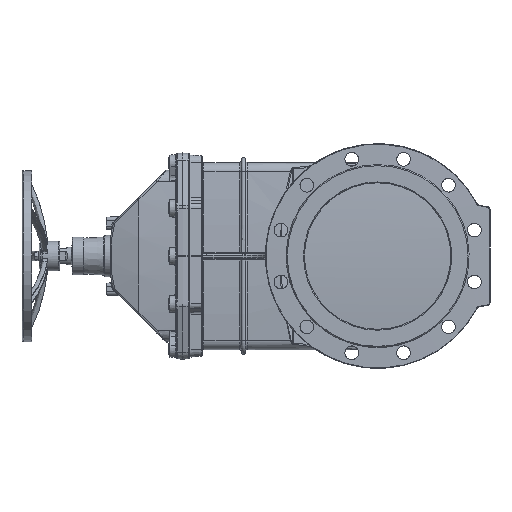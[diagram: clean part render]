
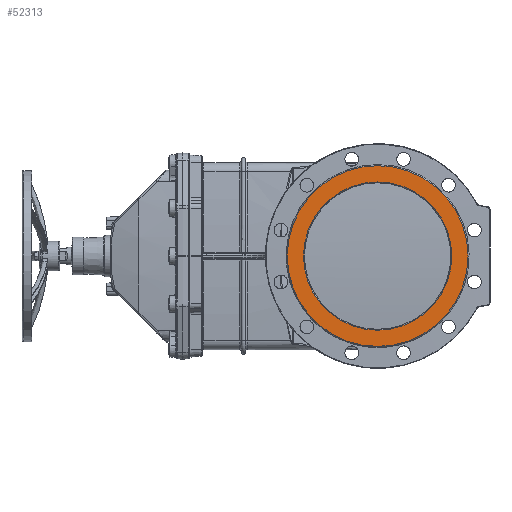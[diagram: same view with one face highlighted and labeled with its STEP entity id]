
A CAD part, left-side view. The second image highlights one B-rep face of the part: STEP entity #52313.
In plain terms, the highlighted planar face has unit normal (-1, 0, 0).
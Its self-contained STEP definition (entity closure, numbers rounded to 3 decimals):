
#15061 = CARTESIAN_POINT ( 'NONE',  ( -135., 0., 185. ) ) ;
#15064 = VERTEX_POINT ( 'NONE', #15061 ) ;
#15071 = CARTESIAN_POINT ( 'NONE',  ( -135., 0., 151.732 ) ) ;
#15074 = VERTEX_POINT ( 'NONE', #15071 ) ;
#31834 = EDGE_CURVE ( 'NONE', #15074, #15074, #63956, .T. ) ;
#31922 = EDGE_CURVE ( 'NONE', #15064, #15064, #64433, .T. ) ;
#52298 = EDGE_LOOP ( 'NONE', ( #52302 ) ) ;
#52299 = ORIENTED_EDGE ( 'NONE', *, *, #31922, .T. ) ;
#52302 = ORIENTED_EDGE ( 'NONE', *, *, #31834, .T. ) ;
#52307 = EDGE_LOOP ( 'NONE', ( #52299 ) ) ;
#52313 = ADVANCED_FACE ( 'NONE', ( #57514, #57506 ), #57584, .T. ) ;
#57506 = FACE_BOUND ( 'NONE', #52298, .T. ) ;
#57514 = FACE_OUTER_BOUND ( 'NONE', #52307, .T. ) ;
#57578 = DIRECTION ( 'NONE',  ( 0., 0., 1. ) ) ;
#57579 = DIRECTION ( 'NONE',  ( -1., 0., 0. ) ) ;
#57581 = CARTESIAN_POINT ( 'NONE',  ( -135., 230., 0. ) ) ;
#57582 = AXIS2_PLACEMENT_3D ( 'NONE', #57581, #57579, #57578 ) ;
#57584 = PLANE ( 'NONE',  #57582 ) ;
#63956 = CIRCLE ( 'NONE', #64022, 151.732 ) ;
#64022 = AXIS2_PLACEMENT_3D ( 'NONE', #64053, #64052, #64051 ) ;
#64051 = DIRECTION ( 'NONE',  ( 0., 0., 1. ) ) ;
#64052 = DIRECTION ( 'NONE',  ( 1., 0., 0. ) ) ;
#64053 = CARTESIAN_POINT ( 'NONE',  ( -135., 0., 0. ) ) ;
#64429 = DIRECTION ( 'NONE',  ( 0., 0., 1. ) ) ;
#64430 = DIRECTION ( 'NONE',  ( -1., 0., 0. ) ) ;
#64431 = CARTESIAN_POINT ( 'NONE',  ( -135., 0., 0. ) ) ;
#64432 = AXIS2_PLACEMENT_3D ( 'NONE', #64431, #64430, #64429 ) ;
#64433 = CIRCLE ( 'NONE', #64432, 185. ) ;
